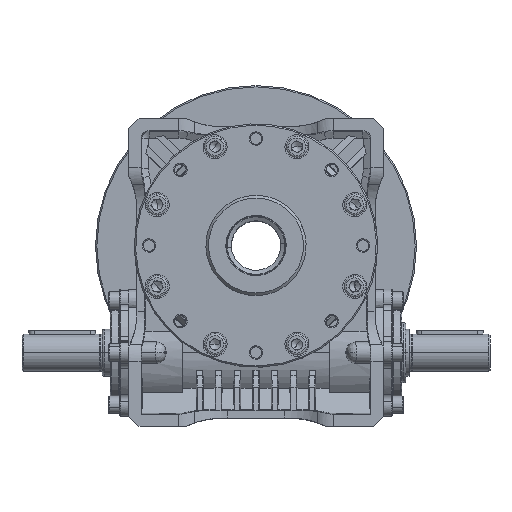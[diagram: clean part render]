
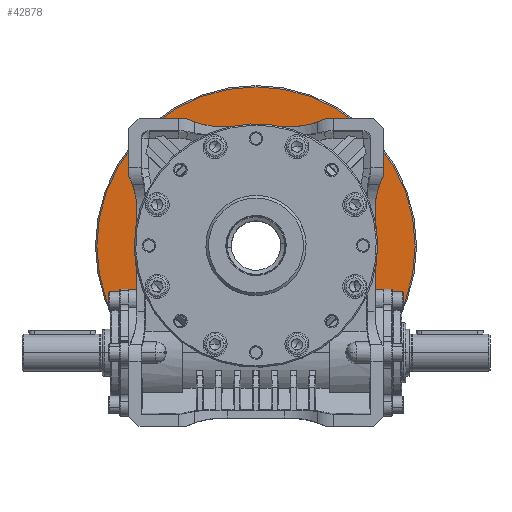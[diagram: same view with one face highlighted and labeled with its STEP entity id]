
A CAD part, top view. The second image highlights one B-rep face of the part: STEP entity #42878.
In plain terms, the highlighted planar face has unit normal (0, 0, 1).
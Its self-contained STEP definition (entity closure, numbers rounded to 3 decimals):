
#2746 = VERTEX_POINT ( 'NONE', #31796 ) ;
#3425 = ORIENTED_EDGE ( 'NONE', *, *, #18003, .T. ) ;
#5346 = ORIENTED_EDGE ( 'NONE', *, *, #44955, .T. ) ;
#5728 = EDGE_CURVE ( 'NONE', #94294, #15707, #103715, .T. ) ;
#6011 = FACE_OUTER_BOUND ( 'NONE', #73110, .T. ) ;
#7213 = EDGE_CURVE ( 'NONE', #39451, #43324, #70177, .T. ) ;
#7625 = DIRECTION ( 'NONE',  ( 0., 0., -1. ) ) ;
#8650 = ORIENTED_EDGE ( 'NONE', *, *, #7213, .T. ) ;
#8821 = VERTEX_POINT ( 'NONE', #110018 ) ;
#10471 = CARTESIAN_POINT ( 'NONE',  ( -74.246, -74.246, -101. ) ) ;
#10566 = CIRCLE ( 'NONE', #107308, 7. ) ;
#11910 = DIRECTION ( 'NONE',  ( -1., 0., 0. ) ) ;
#12572 = CARTESIAN_POINT ( 'NONE',  ( -74.246, 74.246, -101. ) ) ;
#12908 = EDGE_LOOP ( 'NONE', ( #8650, #98267 ) ) ;
#12951 = AXIS2_PLACEMENT_3D ( 'NONE', #50694, #116472, #54080 ) ;
#13146 = CARTESIAN_POINT ( 'NONE',  ( 0., 0., -101. ) ) ;
#13393 = CIRCLE ( 'NONE', #81863, 7. ) ;
#15511 = DIRECTION ( 'NONE',  ( 0., 0., 1. ) ) ;
#15707 = VERTEX_POINT ( 'NONE', #112629 ) ;
#15952 = EDGE_CURVE ( 'NONE', #108044, #30865, #103996, .T. ) ;
#18003 = EDGE_CURVE ( 'NONE', #41385, #75828, #108047, .T. ) ;
#18691 = ORIENTED_EDGE ( 'NONE', *, *, #96101, .T. ) ;
#19898 = CIRCLE ( 'NONE', #38900, 7. ) ;
#20051 = DIRECTION ( 'NONE',  ( -1., 0., 0. ) ) ;
#20101 = AXIS2_PLACEMENT_3D ( 'NONE', #106372, #114113, #79615 ) ;
#20356 = CARTESIAN_POINT ( 'NONE',  ( -74.246, 74.246, -101. ) ) ;
#22851 = EDGE_CURVE ( 'NONE', #15707, #94294, #37313, .T. ) ;
#27072 = DIRECTION ( 'NONE',  ( -1., 0., 0. ) ) ;
#27721 = DIRECTION ( 'NONE',  ( -1., 0., 0. ) ) ;
#28160 = EDGE_CURVE ( 'NONE', #75828, #41385, #107920, .T. ) ;
#28747 = DIRECTION ( 'NONE',  ( -1., 0., 0. ) ) ;
#30865 = VERTEX_POINT ( 'NONE', #73208 ) ;
#31486 = EDGE_CURVE ( 'NONE', #30865, #108044, #44165, .T. ) ;
#31796 = CARTESIAN_POINT ( 'NONE',  ( -67.246, 74.246, -101. ) ) ;
#32330 = CARTESIAN_POINT ( 'NONE',  ( 67.246, -74.246, -101. ) ) ;
#33597 = DIRECTION ( 'NONE',  ( -1., 0., 0. ) ) ;
#35227 = CARTESIAN_POINT ( 'NONE',  ( -119., 0., -101. ) ) ;
#36171 = VERTEX_POINT ( 'NONE', #98382 ) ;
#37313 = CIRCLE ( 'NONE', #105640, 119. ) ;
#38900 = AXIS2_PLACEMENT_3D ( 'NONE', #101478, #75307, #20051 ) ;
#39224 = EDGE_CURVE ( 'NONE', #41790, #8821, #73606, .T. ) ;
#39451 = VERTEX_POINT ( 'NONE', #102798 ) ;
#41034 = FACE_BOUND ( 'NONE', #63343, .T. ) ;
#41385 = VERTEX_POINT ( 'NONE', #50832 ) ;
#41790 = VERTEX_POINT ( 'NONE', #32330 ) ;
#41899 = CARTESIAN_POINT ( 'NONE',  ( 0., 0., -101. ) ) ;
#42878 = ADVANCED_FACE ( 'NONE', ( #6011, #52833, #41034, #77889, #79036, #51729 ), #77286, .F. ) ;
#43324 = VERTEX_POINT ( 'NONE', #43836 ) ;
#43836 = CARTESIAN_POINT ( 'NONE',  ( 81.246, 74.246, -101. ) ) ;
#44165 = CIRCLE ( 'NONE', #55548, 91. ) ;
#44955 = EDGE_CURVE ( 'NONE', #2746, #36171, #13393, .T. ) ;
#47493 = ORIENTED_EDGE ( 'NONE', *, *, #22851, .T. ) ;
#50694 = CARTESIAN_POINT ( 'NONE',  ( 74.246, -74.246, -101. ) ) ;
#50832 = CARTESIAN_POINT ( 'NONE',  ( -81.246, -74.246, -101. ) ) ;
#51405 = ORIENTED_EDGE ( 'NONE', *, *, #77811, .T. ) ;
#51729 = FACE_BOUND ( 'NONE', #54288, .T. ) ;
#52468 = AXIS2_PLACEMENT_3D ( 'NONE', #105224, #15511, #78512 ) ;
#52833 = FACE_BOUND ( 'NONE', #109809, .T. ) ;
#54080 = DIRECTION ( 'NONE',  ( -1., 0., 0. ) ) ;
#54288 = EDGE_LOOP ( 'NONE', ( #116674, #70702 ) ) ;
#55036 = DIRECTION ( 'NONE',  ( 0., 0., -1. ) ) ;
#55548 = AXIS2_PLACEMENT_3D ( 'NONE', #91849, #7625, #98511 ) ;
#56032 = DIRECTION ( 'NONE',  ( 0., 0., -1. ) ) ;
#58443 = AXIS2_PLACEMENT_3D ( 'NONE', #41899, #78166, #69215 ) ;
#58784 = CARTESIAN_POINT ( 'NONE',  ( -74.246, -74.246, -101. ) ) ;
#60482 = AXIS2_PLACEMENT_3D ( 'NONE', #12572, #75560, #27072 ) ;
#63343 = EDGE_LOOP ( 'NONE', ( #95151, #18691 ) ) ;
#66202 = AXIS2_PLACEMENT_3D ( 'NONE', #10471, #55036, #27721 ) ;
#69215 = DIRECTION ( 'NONE',  ( -1., 0., 0. ) ) ;
#70177 = CIRCLE ( 'NONE', #98567, 7. ) ;
#70702 = ORIENTED_EDGE ( 'NONE', *, *, #15952, .T. ) ;
#73110 = EDGE_LOOP ( 'NONE', ( #77485, #47493 ) ) ;
#73208 = CARTESIAN_POINT ( 'NONE',  ( -91., 0., -101. ) ) ;
#73606 = CIRCLE ( 'NONE', #12951, 7. ) ;
#75307 = DIRECTION ( 'NONE',  ( 0., 0., -1. ) ) ;
#75560 = DIRECTION ( 'NONE',  ( 0., 0., -1. ) ) ;
#75828 = VERTEX_POINT ( 'NONE', #116424 ) ;
#77286 = PLANE ( 'NONE',  #20101 ) ;
#77485 = ORIENTED_EDGE ( 'NONE', *, *, #5728, .T. ) ;
#77811 = EDGE_CURVE ( 'NONE', #36171, #2746, #117388, .T. ) ;
#77889 = FACE_BOUND ( 'NONE', #12908, .T. ) ;
#78166 = DIRECTION ( 'NONE',  ( 0., 0., -1. ) ) ;
#78512 = DIRECTION ( 'NONE',  ( -1., 0., 0. ) ) ;
#79036 = FACE_BOUND ( 'NONE', #91309, .T. ) ;
#79615 = DIRECTION ( 'NONE',  ( -1., 0., 0. ) ) ;
#81863 = AXIS2_PLACEMENT_3D ( 'NONE', #20356, #56032, #28747 ) ;
#85466 = ORIENTED_EDGE ( 'NONE', *, *, #28160, .T. ) ;
#89050 = DIRECTION ( 'NONE',  ( -1., 0., 0. ) ) ;
#89438 = DIRECTION ( 'NONE',  ( 0., 0., -1. ) ) ;
#91052 = AXIS2_PLACEMENT_3D ( 'NONE', #58784, #93903, #11910 ) ;
#91309 = EDGE_LOOP ( 'NONE', ( #51405, #5346 ) ) ;
#91849 = CARTESIAN_POINT ( 'NONE',  ( 0., 0., -101. ) ) ;
#93903 = DIRECTION ( 'NONE',  ( 0., 0., -1. ) ) ;
#94294 = VERTEX_POINT ( 'NONE', #35227 ) ;
#95151 = ORIENTED_EDGE ( 'NONE', *, *, #39224, .T. ) ;
#95169 = EDGE_CURVE ( 'NONE', #43324, #39451, #19898, .T. ) ;
#96101 = EDGE_CURVE ( 'NONE', #8821, #41790, #10566, .T. ) ;
#97347 = CARTESIAN_POINT ( 'NONE',  ( 91., 0., -101. ) ) ;
#98267 = ORIENTED_EDGE ( 'NONE', *, *, #95169, .T. ) ;
#98382 = CARTESIAN_POINT ( 'NONE',  ( -81.246, 74.246, -101. ) ) ;
#98511 = DIRECTION ( 'NONE',  ( -1., 0., 0. ) ) ;
#98567 = AXIS2_PLACEMENT_3D ( 'NONE', #116717, #89438, #33597 ) ;
#101478 = CARTESIAN_POINT ( 'NONE',  ( 74.246, 74.246, -101. ) ) ;
#102798 = CARTESIAN_POINT ( 'NONE',  ( 67.246, 74.246, -101. ) ) ;
#103715 = CIRCLE ( 'NONE', #52468, 119. ) ;
#103996 = CIRCLE ( 'NONE', #58443, 91. ) ;
#105224 = CARTESIAN_POINT ( 'NONE',  ( 0., 0., -101. ) ) ;
#105640 = AXIS2_PLACEMENT_3D ( 'NONE', #13146, #112403, #111208 ) ;
#105701 = CARTESIAN_POINT ( 'NONE',  ( 74.246, -74.246, -101. ) ) ;
#106372 = CARTESIAN_POINT ( 'NONE',  ( 0., 91., -101. ) ) ;
#106884 = DIRECTION ( 'NONE',  ( 0., 0., -1. ) ) ;
#107308 = AXIS2_PLACEMENT_3D ( 'NONE', #105701, #106884, #89050 ) ;
#107920 = CIRCLE ( 'NONE', #66202, 7. ) ;
#108044 = VERTEX_POINT ( 'NONE', #97347 ) ;
#108047 = CIRCLE ( 'NONE', #91052, 7. ) ;
#109809 = EDGE_LOOP ( 'NONE', ( #3425, #85466 ) ) ;
#110018 = CARTESIAN_POINT ( 'NONE',  ( 81.246, -74.246, -101. ) ) ;
#111208 = DIRECTION ( 'NONE',  ( -1., 0., 0. ) ) ;
#112403 = DIRECTION ( 'NONE',  ( 0., 0., 1. ) ) ;
#112629 = CARTESIAN_POINT ( 'NONE',  ( 119., 0., -101. ) ) ;
#114113 = DIRECTION ( 'NONE',  ( 0., 0., -1. ) ) ;
#116424 = CARTESIAN_POINT ( 'NONE',  ( -67.246, -74.246, -101. ) ) ;
#116472 = DIRECTION ( 'NONE',  ( 0., 0., -1. ) ) ;
#116674 = ORIENTED_EDGE ( 'NONE', *, *, #31486, .T. ) ;
#116717 = CARTESIAN_POINT ( 'NONE',  ( 74.246, 74.246, -101. ) ) ;
#117388 = CIRCLE ( 'NONE', #60482, 7. ) ;
